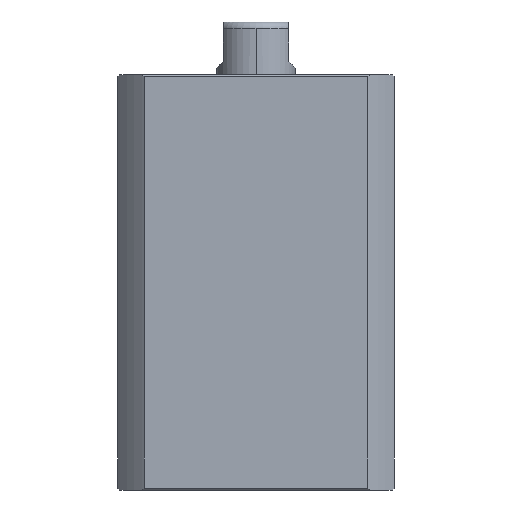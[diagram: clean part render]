
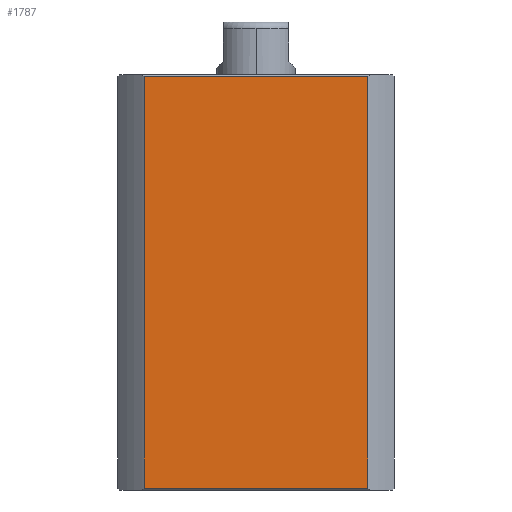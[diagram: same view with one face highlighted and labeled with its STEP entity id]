
A CAD part, left-side view. The second image highlights one B-rep face of the part: STEP entity #1787.
In plain terms, the highlighted planar face has unit normal (-1, 0, 0).
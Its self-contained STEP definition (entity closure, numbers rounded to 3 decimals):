
#34 = CARTESIAN_POINT ( 'NONE',  ( -21., 16.971, 0.3 ) ) ;
#108 = CARTESIAN_POINT ( 'NONE',  ( -21., -16.971, 62.7 ) ) ;
#287 = VECTOR ( 'NONE', #854, 1000. ) ;
#683 = VERTEX_POINT ( 'NONE', #4053 ) ;
#838 = VECTOR ( 'NONE', #2050, 1000. ) ;
#854 = DIRECTION ( 'NONE',  ( 0., -1., 0. ) ) ;
#1056 = EDGE_CURVE ( 'NONE', #9613, #8683, #5074, .T. ) ;
#1329 = DIRECTION ( 'NONE',  ( 0., 1., 0. ) ) ;
#1787 = ADVANCED_FACE ( 'NONE', ( #6642 ), #2214, .F. ) ;
#1839 = ORIENTED_EDGE ( 'NONE', *, *, #11892, .F. ) ;
#2050 = DIRECTION ( 'NONE',  ( 0., 0., -1. ) ) ;
#2214 = PLANE ( 'NONE',  #7164 ) ;
#2532 = LINE ( 'NONE', #7370, #287 ) ;
#3156 = DIRECTION ( 'NONE',  ( 1., 0., 0. ) ) ;
#3226 = VECTOR ( 'NONE', #11040, 1000. ) ;
#3381 = LINE ( 'NONE', #10372, #838 ) ;
#4053 = CARTESIAN_POINT ( 'NONE',  ( -21., -16.971, 0.3 ) ) ;
#4466 = CARTESIAN_POINT ( 'NONE',  ( -21., 16.971, 62.7 ) ) ;
#5074 = LINE ( 'NONE', #11992, #3226 ) ;
#5320 = VERTEX_POINT ( 'NONE', #108 ) ;
#5835 = CARTESIAN_POINT ( 'NONE',  ( -21., 21., 63. ) ) ;
#5837 = EDGE_CURVE ( 'NONE', #9613, #683, #2532, .T. ) ;
#6371 = EDGE_CURVE ( 'NONE', #5320, #8683, #9463, .T. ) ;
#6642 = FACE_OUTER_BOUND ( 'NONE', #9723, .T. ) ;
#6773 = ORIENTED_EDGE ( 'NONE', *, *, #6371, .T. ) ;
#7001 = VECTOR ( 'NONE', #1329, 1000. ) ;
#7164 = AXIS2_PLACEMENT_3D ( 'NONE', #5835, #3156, #9619 ) ;
#7370 = CARTESIAN_POINT ( 'NONE',  ( -21., 21., 0.3 ) ) ;
#7858 = CARTESIAN_POINT ( 'NONE',  ( -21., 21., 62.7 ) ) ;
#8683 = VERTEX_POINT ( 'NONE', #4466 ) ;
#8968 = ORIENTED_EDGE ( 'NONE', *, *, #1056, .F. ) ;
#9463 = LINE ( 'NONE', #7858, #7001 ) ;
#9613 = VERTEX_POINT ( 'NONE', #34 ) ;
#9619 = DIRECTION ( 'NONE',  ( 0., 1., 0. ) ) ;
#9723 = EDGE_LOOP ( 'NONE', ( #8968, #11484, #1839, #6773 ) ) ;
#10372 = CARTESIAN_POINT ( 'NONE',  ( -21., -16.971, -237. ) ) ;
#11040 = DIRECTION ( 'NONE',  ( 0., 0., 1. ) ) ;
#11484 = ORIENTED_EDGE ( 'NONE', *, *, #5837, .T. ) ;
#11892 = EDGE_CURVE ( 'NONE', #5320, #683, #3381, .T. ) ;
#11992 = CARTESIAN_POINT ( 'NONE',  ( -21., 16.971, -237. ) ) ;
